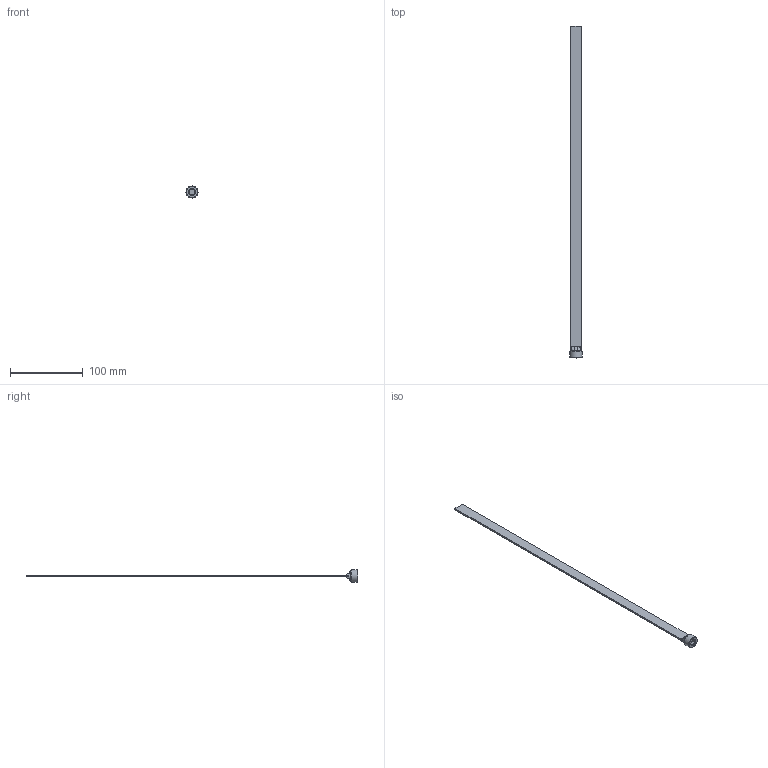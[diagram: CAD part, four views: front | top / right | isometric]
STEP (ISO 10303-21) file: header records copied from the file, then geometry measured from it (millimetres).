
FILE_DESCRIPTION(/* description */ (''),/* implementation_level */ '2;1');
FILE_NAME(/* name */ 'C:/Users/drich/Desktop/SB38X18BSP v1.step',/* time_stamp */ '2020-01-04T16:06:12-06:00',/* author */ (''),/* organization */ (''),/* preprocessor_version */ 'ST-DEVELOPER v18',/* originating_system */ 'Autodesk Translation Framework v8.12.0.6',/* authorisation */ '');
FILE_SCHEMA (('AUTOMOTIVE_DESIGN { 1 0 10303 214 3 1 1 }'));
Length unit declared in the file: inch
Products named in the file (1): SB38X18BSP
Bounding box: 16.54 x 457.2 x 16.54 mm (x, y, z)
Volume: 17092.3 mm3; surface area: 15798.6 mm2
Topology: 1 solids, 1 shells, 51 faces, 129 edges, 82 vertices
Faces by surface type: plane 24, cylinder 8, torus 8, bspline 8, cone 3
Full cylindrical faces by diameter (mm): 7.874 x1, 16.537 x1
Entity records: 2069 total; most frequent: CARTESIAN_POINT 895, ORIENTED_EDGE 258, DIRECTION 203, EDGE_CURVE 129, VERTEX_POINT 82, AXIS2_PLACEMENT_3D 78, EDGE_LOOP 53, FACE_OUTER_BOUND 51
